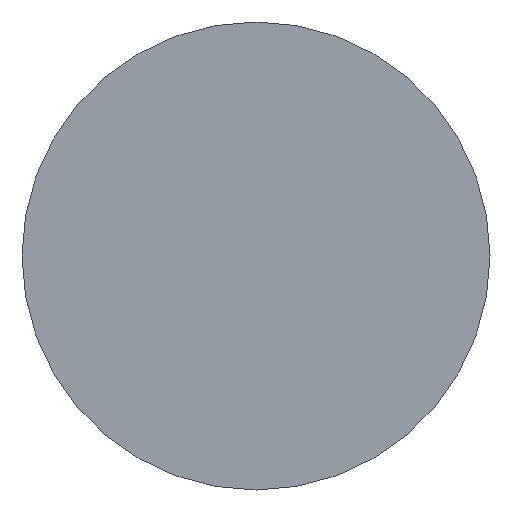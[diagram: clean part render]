
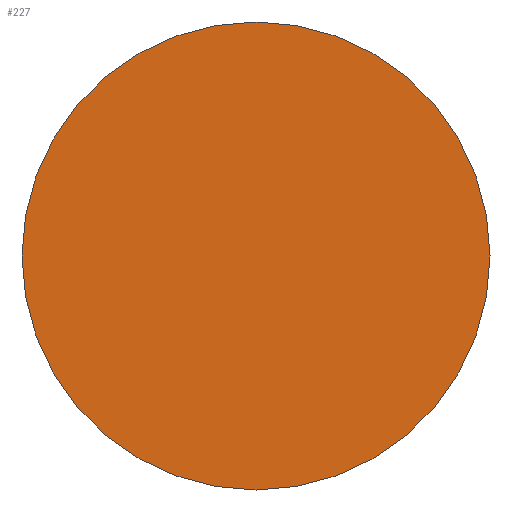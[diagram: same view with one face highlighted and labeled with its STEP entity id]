
A CAD part, left-side view. The second image highlights one B-rep face of the part: STEP entity #227.
In plain terms, the highlighted planar face has unit normal (-1, 0, 0).
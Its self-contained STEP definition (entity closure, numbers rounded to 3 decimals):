
#7 = DIRECTION ( 'NONE',  ( 1., 0., 0. ) ) ;
#22 = CIRCLE ( 'NONE', #38, 8. ) ;
#23 = FACE_OUTER_BOUND ( 'NONE', #231, .T. ) ;
#31 = DIRECTION ( 'NONE',  ( 1., 0., 0. ) ) ;
#38 = AXIS2_PLACEMENT_3D ( 'NONE', #238, #31, #133 ) ;
#40 = AXIS2_PLACEMENT_3D ( 'NONE', #145, #7, #271 ) ;
#65 = CARTESIAN_POINT ( 'NONE',  ( 0., -8., 0. ) ) ;
#71 = DIRECTION ( 'NONE',  ( -1., 0., 0. ) ) ;
#96 = PLANE ( 'NONE',  #100 ) ;
#100 = AXIS2_PLACEMENT_3D ( 'NONE', #199, #71, #163 ) ;
#102 = CIRCLE ( 'NONE', #40, 8. ) ;
#112 = VERTEX_POINT ( 'NONE', #65 ) ;
#133 = DIRECTION ( 'NONE',  ( 0., 1., 0. ) ) ;
#145 = CARTESIAN_POINT ( 'NONE',  ( 0., 0., 0. ) ) ;
#163 = DIRECTION ( 'NONE',  ( 0., -1., 0. ) ) ;
#174 = ORIENTED_EDGE ( 'NONE', *, *, #269, .F. ) ;
#183 = CARTESIAN_POINT ( 'NONE',  ( 0., 8., 0. ) ) ;
#191 = VERTEX_POINT ( 'NONE', #183 ) ;
#199 = CARTESIAN_POINT ( 'NONE',  ( 0., 0., 0. ) ) ;
#221 = ORIENTED_EDGE ( 'NONE', *, *, #263, .F. ) ;
#227 = ADVANCED_FACE ( 'NONE', ( #23 ), #96, .T. ) ;
#231 = EDGE_LOOP ( 'NONE', ( #174, #221 ) ) ;
#238 = CARTESIAN_POINT ( 'NONE',  ( 0., 0., 0. ) ) ;
#263 = EDGE_CURVE ( 'NONE', #112, #191, #102, .T. ) ;
#269 = EDGE_CURVE ( 'NONE', #191, #112, #22, .T. ) ;
#271 = DIRECTION ( 'NONE',  ( 0., 1., 0. ) ) ;
